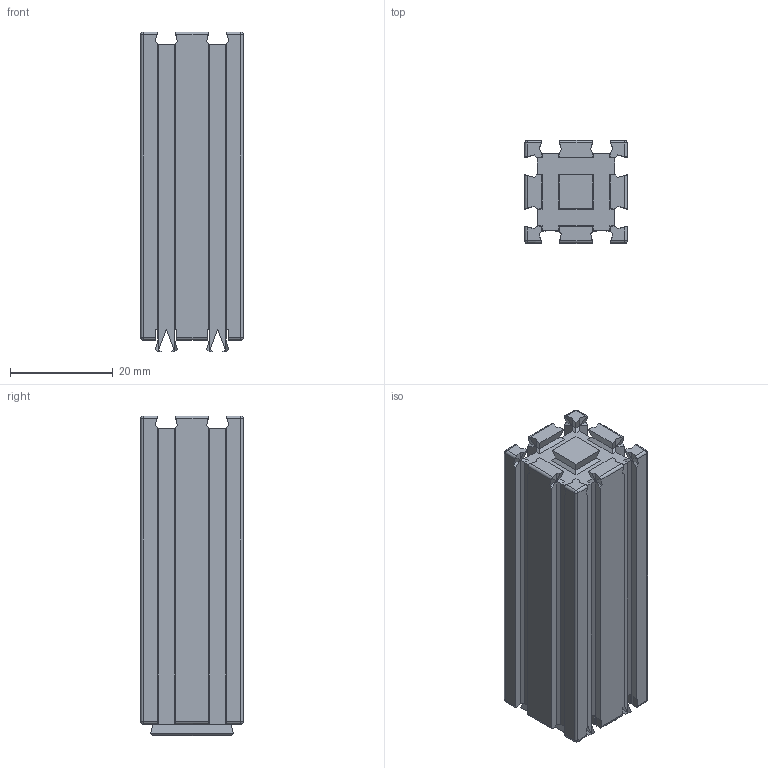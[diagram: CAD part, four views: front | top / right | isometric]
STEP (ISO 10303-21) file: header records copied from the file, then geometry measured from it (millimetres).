
FILE_DESCRIPTION(/* description */ (''),/* implementation_level */ '2;1');
FILE_NAME(/* name */ 'C:/Users/priba/Downloads/Brick2x2x6mf.step',/* time_stamp */ '2022-04-03T10:53:18+02:00',/* author */ (''),/* organization */ (''),/* preprocessor_version */ 'ST-DEVELOPER v18.1',/* originating_system */ 'Autodesk Translation Framework v10.13.0.1454',/* authorisation */ '');
FILE_SCHEMA (('AUTOMOTIVE_DESIGN { 1 0 10303 214 3 1 1 }'));
Length unit declared in the file: millimetre
Products named in the file (2): Brick2x2x6mf; Brick 2x2x2 itself
Assembly tree (1 placements, depth 2):
  Brick2x2x6mf
    Brick 2x2x2 itself
Bounding box: 20 x 20 x 62.31 mm (x, y, z)
Volume: 8596.1 mm3; surface area: 12984.2 mm2
Topology: 1 solids, 5 shells, 414 faces, 1018 edges, 620 vertices
Faces by surface type: plane 378, cylinder 28, sphere 8
Entity records: 11835 total; most frequent: CARTESIAN_POINT 2055, ORIENTED_EDGE 2036, DIRECTION 1924, EDGE_CURVE 1018, LINE 946, VECTOR 946, VERTEX_POINT 620, AXIS2_PLACEMENT_3D 489
